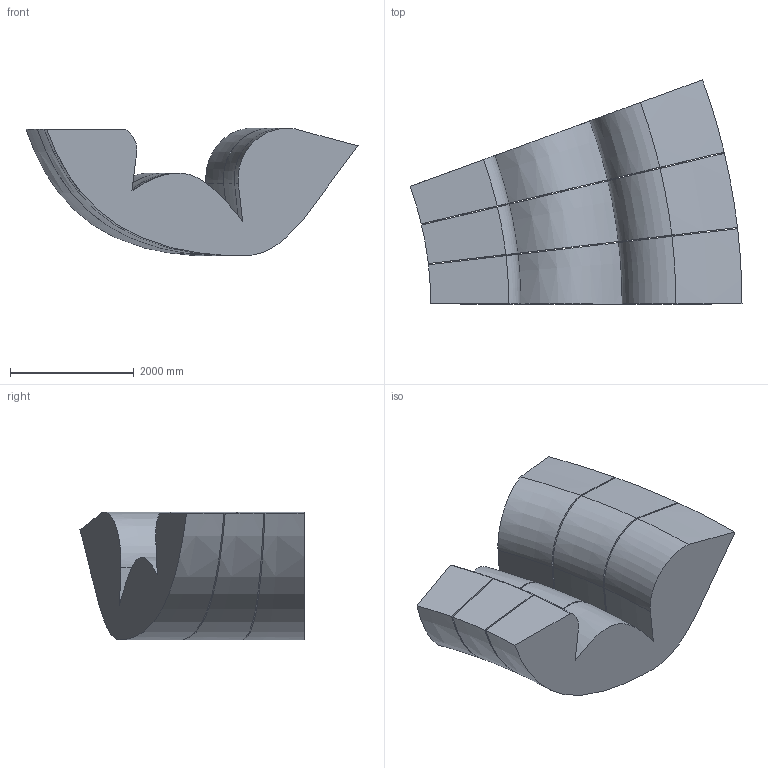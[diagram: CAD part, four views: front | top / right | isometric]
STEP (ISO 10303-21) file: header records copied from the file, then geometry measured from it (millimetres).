
FILE_DESCRIPTION(('FreeCAD Model'),'2;1');
FILE_NAME('Open CASCADE Shape Model','2026-10-11T08:18:56',('Bluemira'), ('Bluemira'),'Open CASCADE STEP processor 7.8','FreeCAD','Unknown');
FILE_SCHEMA(('AP242_MANAGED_MODEL_BASED_3D_ENGINEERING_MIM_LF. {1 0 10303 442 1 1 4 }'));
Length unit declared in the file: metre
Products named in the file (4): Unnamed; segment_0_1_1; segment_1_1_1; segment_2_1_1
Assembly tree (3 placements, depth 2):
  Unnamed
    segment_0_1_1
    segment_1_1_1
    segment_2_1_1
Bounding box: 5360.59 x 3617.66 x 2063.14 mm (x, y, z)
Volume: 16053020632.1 mm3; surface area: 74239361.4 mm2
Topology: 3 solids, 3 shells, 30 faces, 72 edges, 48 vertices
Faces by surface type: cone 9, plane 9, revolution 6, torus 6
Entity records: 12460 total; most frequent: CARTESIAN_POINT 11122, DIRECTION 200, ORIENTED_EDGE 144, PCURVE 144, DEFINITIONAL_REPRESENTATION 144, B_SPLINE_CURVE_WITH_KNOTS 108, EDGE_CURVE 72, SURFACE_CURVE 72
